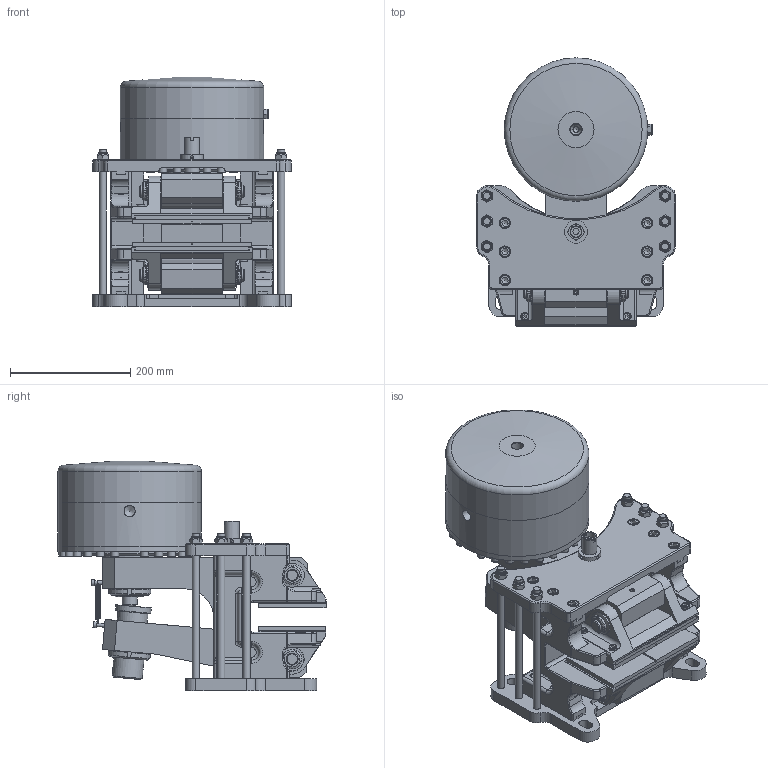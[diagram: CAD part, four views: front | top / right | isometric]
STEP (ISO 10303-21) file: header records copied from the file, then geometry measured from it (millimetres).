
FILE_DESCRIPTION(/* description */ ('','CAx-IF Rec.Pracs.---Representation and Presentation of Product Manufacturing Information (PMI)---4.0---2014-10-13'),/* implementation_level */ '2;1');
FILE_NAME(/* name */ 'X:\INVENTOR\DISEGNI\19_Pinze\STEP x Sito\PNEUM-POSITIVE\19_16_700_05 PPTP700_30.stp',/* time_stamp */ '2018-10-29T08:58:23+01:00',/* author */ ('stefano'),/* organization */ (''),/* preprocessor_version */ 'ST-DEVELOPER v17',/* originating_system */ 'Autodesk Inventor 2018',/* authorisation */ '');
FILE_SCHEMA (('AP242_MANAGED_MODEL_BASED_3D_ENGINEERING_MIM_LF { 1 0 10303 442 1 1 4 }'));
Length unit declared in the file: millimetre
Products named in the file (1): 19_16_700_05 PPTP700_30_Substitute_3
Bounding box: 330.02 x 445 x 380.6 mm (x, y, z)
Volume: 14507461.1 mm3; surface area: 1298536.8 mm2
Topology: 1 solids, 1 shells, 1827 faces, 5008 edges, 3319 vertices
Faces by surface type: plane 963, cylinder 449, cone 200, torus 179, bspline 24, sphere 12
Full cylindrical faces by diameter (mm): 1.2 x2, 3 x1, 5 x2, 5.188 x7, 5.25 x4, 6 x2, 6.3 x6, 8 x8, 8.376 x1, 8.5 x8, 8.917 x1, 9.188 x1, 10 x4, 10.106 x19, 11.445 x2, 12 x26, 12.5 x18, 13 x35, 13.5 x8, 14 x1, 15.3 x6, 17 x2, 18 x14, 18.631 x2, 19 x12, 19.5 x1, 20 x13, 22 x6, 25 x12, 28 x1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
Entity records: 66935 total; most frequent: CARTESIAN_POINT 19357, ORIENTED_EDGE 9884, DIRECTION 9658, EDGE_CURVE 4942, AXIS2_PLACEMENT_3D 3687, VERTEX_POINT 3319, LINE 2284, VECTOR 2284
